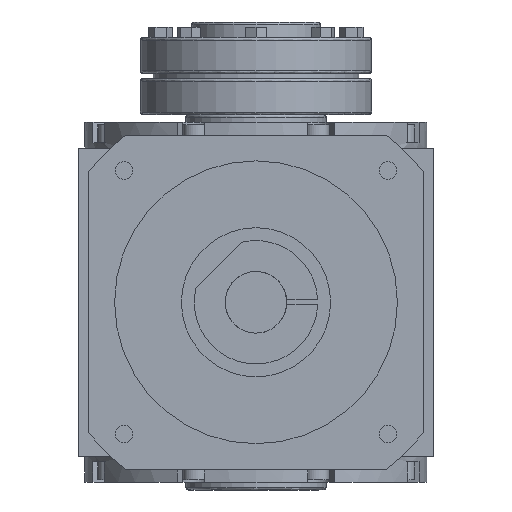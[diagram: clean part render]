
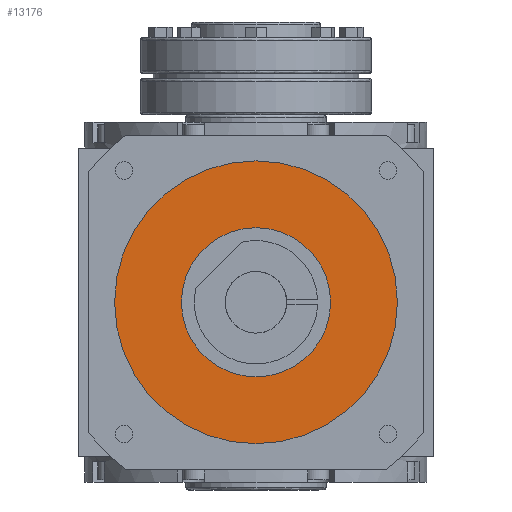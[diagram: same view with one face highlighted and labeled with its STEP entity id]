
A CAD part, front view. The second image highlights one B-rep face of the part: STEP entity #13176.
In plain terms, the highlighted planar face has unit normal (0, -1, 0) as drawn and (0, 0, -1) by its records, which use the part's own axes.
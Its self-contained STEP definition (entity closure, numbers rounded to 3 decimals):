
#602 = EDGE_CURVE ( 'NONE', #12229, #9908, #13707, .T. ) ;
#959 = CARTESIAN_POINT ( 'NONE',  ( 0., 0., -151. ) ) ;
#1418 = DIRECTION ( 'NONE',  ( -1., 0., 0. ) ) ;
#1543 = DIRECTION ( 'NONE',  ( 0., 0., 1. ) ) ;
#2217 = FACE_BOUND ( 'NONE', #18473, .T. ) ;
#3024 = CARTESIAN_POINT ( 'NONE',  ( 0., 0., -151. ) ) ;
#3054 = EDGE_CURVE ( 'NONE', #9908, #12229, #15282, .T. ) ;
#3364 = AXIS2_PLACEMENT_3D ( 'NONE', #3024, #6217, #12136 ) ;
#3764 = DIRECTION ( 'NONE',  ( -1., 0., 0. ) ) ;
#5311 = FACE_OUTER_BOUND ( 'NONE', #10200, .T. ) ;
#5404 = DIRECTION ( 'NONE',  ( 0., 0., -1. ) ) ;
#6003 = CIRCLE ( 'NONE', #7555, 29. ) ;
#6217 = DIRECTION ( 'NONE',  ( 0., 0., 1. ) ) ;
#6465 = CIRCLE ( 'NONE', #3364, 29. ) ;
#7555 = AXIS2_PLACEMENT_3D ( 'NONE', #8806, #1543, #9190 ) ;
#7720 = CARTESIAN_POINT ( 'NONE',  ( 55., 0., -151. ) ) ;
#8240 = ORIENTED_EDGE ( 'NONE', *, *, #16688, .T. ) ;
#8806 = CARTESIAN_POINT ( 'NONE',  ( 0., 0., -151. ) ) ;
#9190 = DIRECTION ( 'NONE',  ( -1., 0., 0. ) ) ;
#9908 = VERTEX_POINT ( 'NONE', #18745 ) ;
#10066 = CARTESIAN_POINT ( 'NONE',  ( 0., 0., -151. ) ) ;
#10200 = EDGE_LOOP ( 'NONE', ( #15659, #12794 ) ) ;
#10314 = AXIS2_PLACEMENT_3D ( 'NONE', #10066, #16002, #18925 ) ;
#11680 = ORIENTED_EDGE ( 'NONE', *, *, #15613, .T. ) ;
#12136 = DIRECTION ( 'NONE',  ( -1., 0., 0. ) ) ;
#12229 = VERTEX_POINT ( 'NONE', #7720 ) ;
#12786 = CARTESIAN_POINT ( 'NONE',  ( -29., 0., -151. ) ) ;
#12794 = ORIENTED_EDGE ( 'NONE', *, *, #602, .T. ) ;
#13176 = ADVANCED_FACE ( 'NONE', ( #5311, #2217 ), #15712, .T. ) ;
#13533 = AXIS2_PLACEMENT_3D ( 'NONE', #959, #5404, #3764 ) ;
#13707 = CIRCLE ( 'NONE', #14635, 55. ) ;
#14635 = AXIS2_PLACEMENT_3D ( 'NONE', #16071, #17632, #1418 ) ;
#15282 = CIRCLE ( 'NONE', #10314, 55. ) ;
#15613 = EDGE_CURVE ( 'NONE', #18638, #19184, #6465, .T. ) ;
#15659 = ORIENTED_EDGE ( 'NONE', *, *, #3054, .T. ) ;
#15712 = PLANE ( 'NONE',  #13533 ) ;
#16002 = DIRECTION ( 'NONE',  ( 0., 0., -1. ) ) ;
#16071 = CARTESIAN_POINT ( 'NONE',  ( 0., 0., -151. ) ) ;
#16688 = EDGE_CURVE ( 'NONE', #19184, #18638, #6003, .T. ) ;
#17632 = DIRECTION ( 'NONE',  ( 0., 0., -1. ) ) ;
#18274 = CARTESIAN_POINT ( 'NONE',  ( 29., 0., -151. ) ) ;
#18473 = EDGE_LOOP ( 'NONE', ( #8240, #11680 ) ) ;
#18638 = VERTEX_POINT ( 'NONE', #18274 ) ;
#18745 = CARTESIAN_POINT ( 'NONE',  ( -55., 0., -151. ) ) ;
#18925 = DIRECTION ( 'NONE',  ( -1., 0., 0. ) ) ;
#19184 = VERTEX_POINT ( 'NONE', #12786 ) ;
